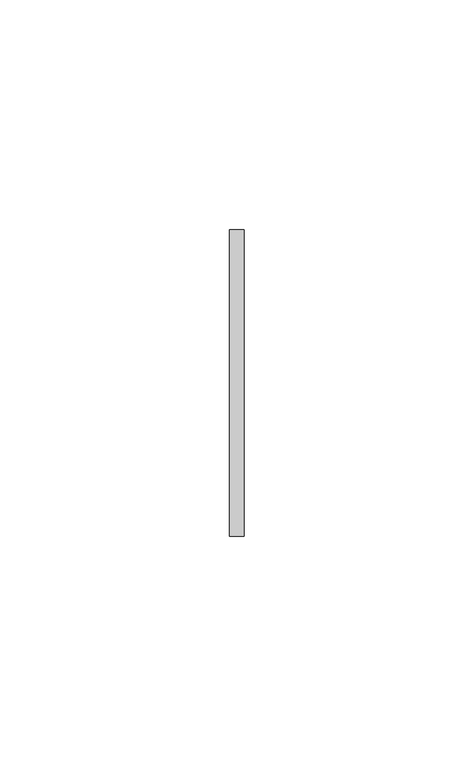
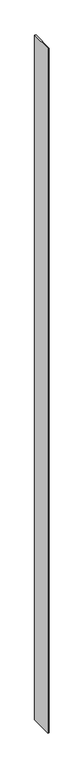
"""IFC4 building model written with IfcOpenShell, lengths in millimetres: furniture geometry, Geiger_GeigerOneCasegoods_WallEndTrim : SingleSided 2.625Wx 0.125Dx 82.625H."""

from ifc_helpers import new_model, si_unit, origin, origin_with_axes, place, context, project, spatial, polyline, outline, extrude, source, transform, mapped, element, save


def furniture_9a9e18b9(model_context):
    return source(origin(), model_context, "Body", "SweptSolid", [
        extrude(outline(polyline([(3.175, 33.3375), (3.175, -33.3375), (0.0, -33.3375), (0.0, 33.3375), (3.175, 33.3375)])), origin_with_axes(), (0.0, 0.0, 1.0), 2098.675),
    ])


if __name__ == "__main__":
    model = new_model("IFC4")
    model_context = context("Model", 3, world=origin())
    ifc_project = project(units=[si_unit("LENGTHUNIT", "METRE", prefix="MILLI")], contexts=[model_context])
    site = spatial("IfcSite", under=ifc_project)
    building = spatial("IfcBuilding", under=site)
    placement = place(None, origin())
    furniture_shape = furniture_9a9e18b9(model_context)
    element("IfcFurniture", 1, ObjectType="Geiger_GeigerOneCasegoods_WallEndTrim : SingleSided 2.625Wx 0.125Dx 82.625H", at=placement, inside=building, context=model_context, shape_type="MappedRepresentation", body=[
        mapped(furniture_shape, transform((0.0, 0.0, 0.0), x_axis=(1.0, 0.0, 0.0), y_axis=(0.0, 1.0, 0.0), z_axis=(0.0, 0.0, 1.0))),
    ])
    save(model, "model.ifc")
